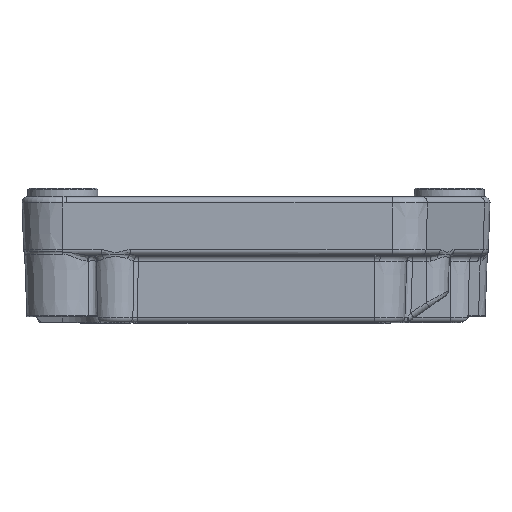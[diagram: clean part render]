
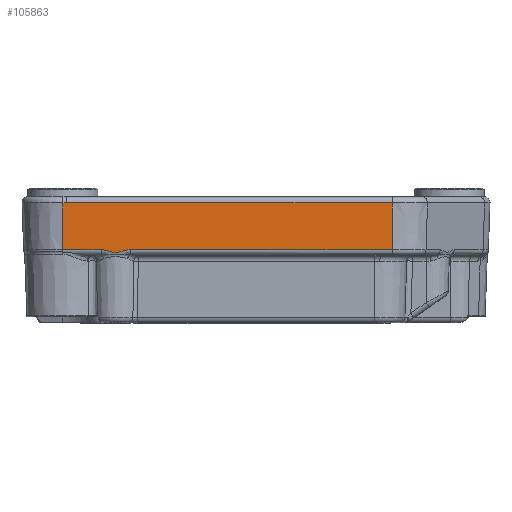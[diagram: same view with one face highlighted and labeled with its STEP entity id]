
A CAD part, front view. The second image highlights one B-rep face of the part: STEP entity #105863.
In plain terms, the highlighted planar face has unit normal (0, -0.999, -0.035).
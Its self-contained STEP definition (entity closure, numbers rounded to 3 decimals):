
#11910 = CARTESIAN_POINT ( 'NONE',  ( -32.348, -29.964, 20.465 ) ) ;
#12262 = CARTESIAN_POINT ( 'NONE',  ( -33., -29.684, 12.465 ) ) ;
#12487 = CARTESIAN_POINT ( 'NONE',  ( -32.565, -29.964, 20.465 ) ) ;
#13303 = DIRECTION ( 'NONE',  ( 0., -0.999, -0.035 ) ) ;
#13949 = CARTESIAN_POINT ( 'NONE',  ( -23.129, -29.672, 12.121 ) ) ;
#23140 = VECTOR ( 'NONE', #70932, 1000. ) ;
#31895 = CARTESIAN_POINT ( 'NONE',  ( -33., -29.964, 20.466 ) ) ;
#32538 = CARTESIAN_POINT ( 'NONE',  ( -26.034, -29.684, 12.465 ) ) ;
#33335 = CARTESIAN_POINT ( 'NONE',  ( -22.296, -29.681, 12.365 ) ) ;
#33653 = EDGE_CURVE ( 'NONE', #248348, #211859, #214146, .T. ) ;
#36670 = ORIENTED_EDGE ( 'NONE', *, *, #61489, .T. ) ;
#52680 = CARTESIAN_POINT ( 'NONE',  ( -21.438, -29.684, 12.465 ) ) ;
#54572 = CARTESIAN_POINT ( 'NONE',  ( -33., -29.964, 20.465 ) ) ;
#59216 = VERTEX_POINT ( 'NONE', #76842 ) ;
#61489 = EDGE_CURVE ( 'NONE', #61709, #59216, #210401, .T. ) ;
#61709 = VERTEX_POINT ( 'NONE', #168527 ) ;
#63965 = EDGE_CURVE ( 'NONE', #224032, #163361, #87199, .T. ) ;
#70361 = ORIENTED_EDGE ( 'NONE', *, *, #113238, .T. ) ;
#70932 = DIRECTION ( 'NONE',  ( 1., 0., 0. ) ) ;
#71398 = CARTESIAN_POINT ( 'NONE',  ( -24.81, -29.673, 12.132 ) ) ;
#76842 = CARTESIAN_POINT ( 'NONE',  ( 23.257, -29.964, 20.465 ) ) ;
#78680 = VERTEX_POINT ( 'NONE', #11910 ) ;
#87199 = B_SPLINE_CURVE_WITH_KNOTS ( 'NONE', 3,
 ( #167440, #32538, #148021, #186800, #71398, #206188, #90706, #225692, #109998, #245007, #129412, #13949, #148851, #33335, #168271, #52680 ),
 .UNSPECIFIED., .F., .F.,
 ( 4, 2, 2, 2, 2, 2, 2, 4 ),
 ( 0., 0.001, 0.002, 0.003, 0.003, 0.003, 0.004, 0.005 ),
 .UNSPECIFIED. ) ;
#88742 = CARTESIAN_POINT ( 'NONE',  ( -33., -30., 21.5 ) ) ;
#90706 = CARTESIAN_POINT ( 'NONE',  ( -24.195, -29.668, 11.985 ) ) ;
#103156 = ORIENTED_EDGE ( 'NONE', *, *, #33653, .T. ) ;
#103841 = EDGE_CURVE ( 'NONE', #78680, #248348, #162291, .T. ) ;
#105863 = ADVANCED_FACE ( 'NONE', ( #176753 ), #244393, .T. ) ;
#106297 = ORIENTED_EDGE ( 'NONE', *, *, #63965, .T. ) ;
#107710 = VECTOR ( 'NONE', #233408, 1000. ) ;
#108065 = DIRECTION ( 'NONE',  ( 0., 0.035, -0.999 ) ) ;
#109093 = CARTESIAN_POINT ( 'NONE',  ( -21.438, -29.684, 12.465 ) ) ;
#109998 = CARTESIAN_POINT ( 'NONE',  ( -23.766, -29.668, 11.987 ) ) ;
#112185 = VECTOR ( 'NONE', #186772, 1000. ) ;
#113238 = EDGE_CURVE ( 'NONE', #163361, #61709, #163564, .T. ) ;
#117925 = AXIS2_PLACEMENT_3D ( 'NONE', #147396, #13303, #148186 ) ;
#127971 = CARTESIAN_POINT ( 'NONE',  ( -32.348, -29.964, 20.465 ) ) ;
#128143 = CARTESIAN_POINT ( 'NONE',  ( -33., -29.684, 12.465 ) ) ;
#129412 = CARTESIAN_POINT ( 'NONE',  ( -23.444, -29.67, 12.041 ) ) ;
#131681 = LINE ( 'NONE', #128143, #23140 ) ;
#147396 = CARTESIAN_POINT ( 'NONE',  ( -33., -30., 21.5 ) ) ;
#147413 = CARTESIAN_POINT ( 'NONE',  ( -32.783, -29.964, 20.466 ) ) ;
#147589 = VECTOR ( 'NONE', #170111, 1000. ) ;
#148021 = CARTESIAN_POINT ( 'NONE',  ( -25.623, -29.681, 12.37 ) ) ;
#148186 = DIRECTION ( 'NONE',  ( 0., 0.035, -0.999 ) ) ;
#148851 = CARTESIAN_POINT ( 'NONE',  ( -22.921, -29.675, 12.186 ) ) ;
#162291 = B_SPLINE_CURVE_WITH_KNOTS ( 'NONE', 3,
 ( #127971, #12487, #147413, #31895 ),
 .UNSPECIFIED., .F., .F.,
 ( 4, 4 ),
 ( 0., 0.001 ),
 .UNSPECIFIED. ) ;
#162819 = VECTOR ( 'NONE', #108065, 1000. ) ;
#163361 = VERTEX_POINT ( 'NONE', #109093 ) ;
#163564 = LINE ( 'NONE', #12262, #112185 ) ;
#167440 = CARTESIAN_POINT ( 'NONE',  ( -26.462, -29.684, 12.465 ) ) ;
#168271 = CARTESIAN_POINT ( 'NONE',  ( -21.874, -29.684, 12.465 ) ) ;
#168527 = CARTESIAN_POINT ( 'NONE',  ( 23.257, -29.684, 12.465 ) ) ;
#170111 = DIRECTION ( 'NONE',  ( -1., 0., 0. ) ) ;
#174893 = EDGE_CURVE ( 'NONE', #59216, #78680, #250231, .T. ) ;
#176753 = FACE_OUTER_BOUND ( 'NONE', #242066, .T. ) ;
#183745 = CARTESIAN_POINT ( 'NONE',  ( -33., -29.684, 12.465 ) ) ;
#186772 = DIRECTION ( 'NONE',  ( 1., 0., 0. ) ) ;
#186800 = CARTESIAN_POINT ( 'NONE',  ( -25.013, -29.675, 12.196 ) ) ;
#193674 = CARTESIAN_POINT ( 'NONE',  ( 23.257, -30., 21.5 ) ) ;
#197549 = CARTESIAN_POINT ( 'NONE',  ( -26.462, -29.684, 12.465 ) ) ;
#206188 = CARTESIAN_POINT ( 'NONE',  ( -24.401, -29.669, 12.026 ) ) ;
#210401 = LINE ( 'NONE', #193674, #107710 ) ;
#211859 = VERTEX_POINT ( 'NONE', #183745 ) ;
#214146 = LINE ( 'NONE', #88742, #162819 ) ;
#217393 = EDGE_CURVE ( 'NONE', #211859, #224032, #131681, .T. ) ;
#224032 = VERTEX_POINT ( 'NONE', #197549 ) ;
#225692 = CARTESIAN_POINT ( 'NONE',  ( -23.875, -29.668, 11.979 ) ) ;
#232984 = ORIENTED_EDGE ( 'NONE', *, *, #174893, .T. ) ;
#233408 = DIRECTION ( 'NONE',  ( 0., -0.035, 0.999 ) ) ;
#240825 = CARTESIAN_POINT ( 'NONE',  ( -33., -29.964, 20.466 ) ) ;
#242066 = EDGE_LOOP ( 'NONE', ( #36670, #232984, #245034, #103156, #248190, #106297, #70361 ) ) ;
#244393 = PLANE ( 'NONE',  #117925 ) ;
#245007 = CARTESIAN_POINT ( 'NONE',  ( -23.55, -29.669, 12.018 ) ) ;
#245034 = ORIENTED_EDGE ( 'NONE', *, *, #103841, .T. ) ;
#248190 = ORIENTED_EDGE ( 'NONE', *, *, #217393, .T. ) ;
#248348 = VERTEX_POINT ( 'NONE', #240825 ) ;
#250231 = LINE ( 'NONE', #54572, #147589 ) ;
